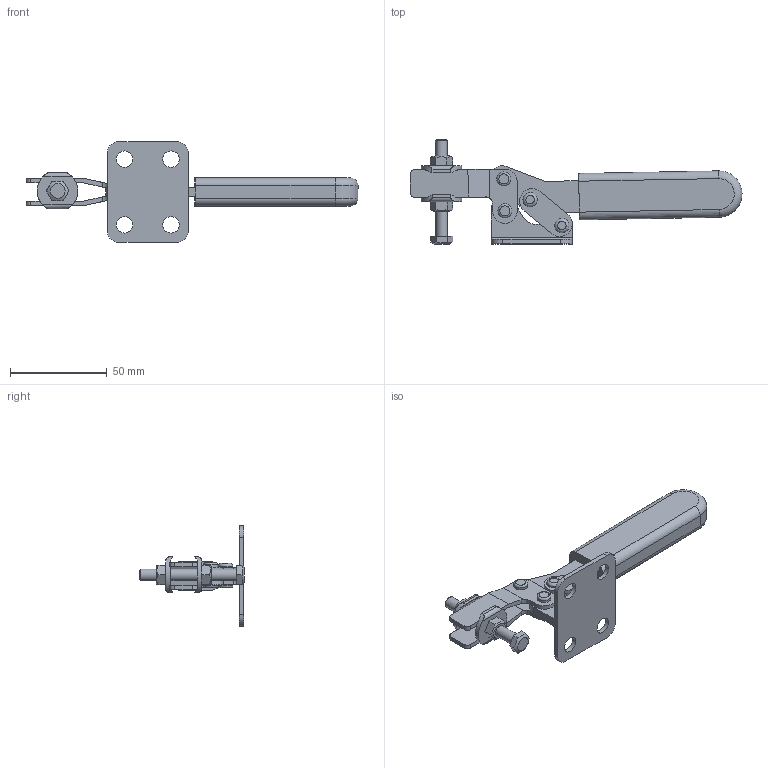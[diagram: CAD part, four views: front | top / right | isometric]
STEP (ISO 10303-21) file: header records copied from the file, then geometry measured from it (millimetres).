
FILE_DESCRIPTION(/* description */ (''),/* implementation_level */ '2;1');
FILE_NAME(/* name */ 'D:\3D作業領域\3D\38BS\No.38BS(38BS-2S).stp',/* time_stamp */ '2021-12-01T10:01:34+09:00',/* author */ ('y-takahashi'),/* organization */ (''),/* preprocessor_version */ 'ST-DEVELOPER v18',/* originating_system */ 'Autodesk Inventor 2020',/* authorisation */ '');
FILE_SCHEMA (('AUTOMOTIVE_DESIGN { 1 0 10303 214 3 1 1 }'));
Length unit declared in the file: millimetre
Products named in the file (9): No.38BS(38BS-2S); 38B(S)ベース1; 38(S)アーム; 38(S)リンク; 38(S) ハンドル3; 38(S)GRP; 38(S)座金; ボルト M6×50; M6ナット
Assembly tree (9 placements, depth 2):
  No.38BS(38BS-2S)
    38B(S)ベース1
    38(S)アーム
    38(S)リンク
    38(S) ハンドル3
    38(S)GRP
    38(S)座金
    ボルト M6×50
    M6ナット  x2
Bounding box: 171.73 x 54.03 x 52 mm (x, y, z)
Volume: 47751.2 mm3; surface area: 29960 mm2
Topology: 11 solids, 11 shells, 215 faces, 500 edges, 333 vertices
Faces by surface type: plane 116, cylinder 81, torus 14, cone 4
Full cylindrical faces by diameter (mm): 3.2 x2, 3.3 x4, 4.98 x4, 5 x12, 6 x3, 6.2 x2, 7.2 x2, 7.4 x2, 7.6 x4, 8.5 x4
Entity records: 6394 total; most frequent: CARTESIAN_POINT 1128, DIRECTION 1113, ORIENTED_EDGE 952, EDGE_CURVE 476, AXIS2_PLACEMENT_3D 434, VERTEX_POINT 317, EDGE_LOOP 259, LINE 245
